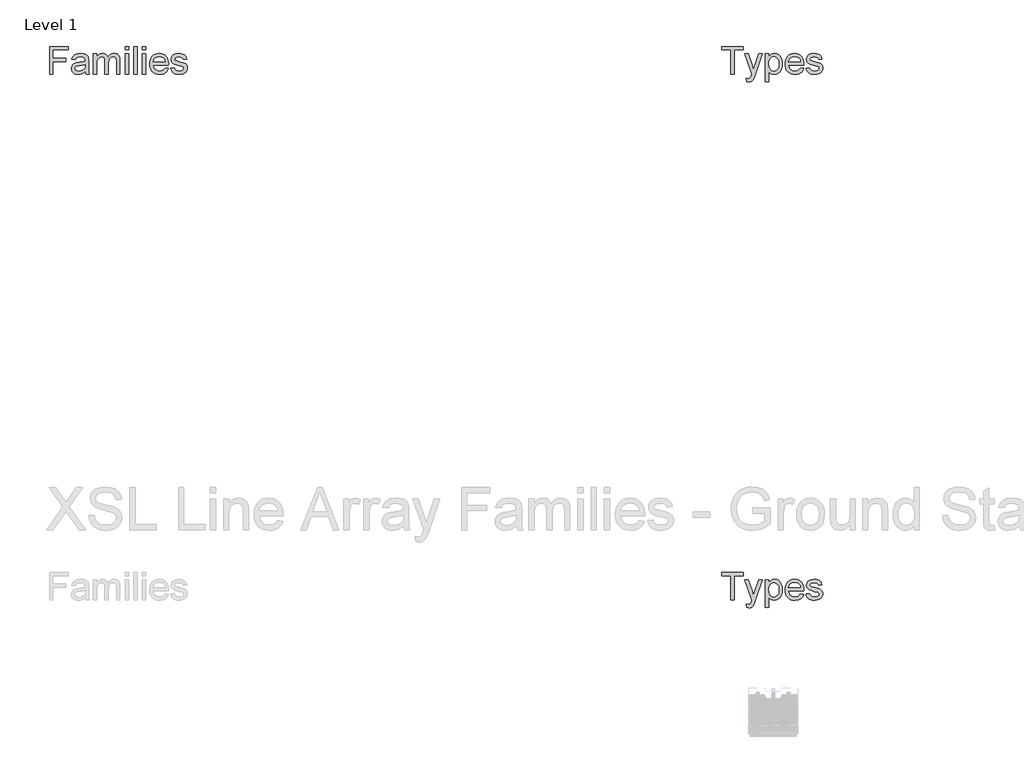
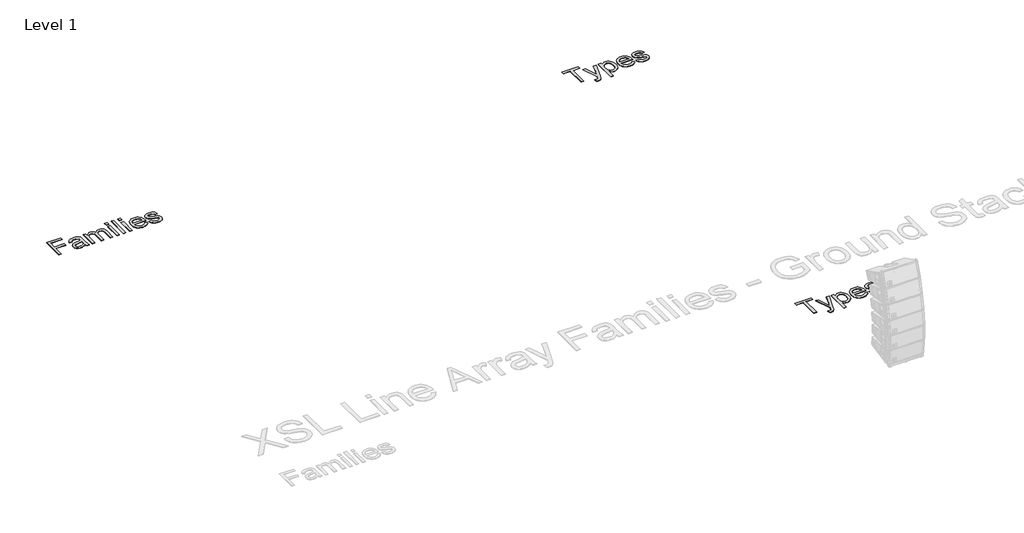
# One storey, part 22 of 52: 3 proxies.
"""IFC4 building model written with IfcOpenShell, lengths in millimetres."""

from ifc_helpers import new_model, si_unit, origin, origin_with_axes, place, context, project, spatial, polyline, outline, extrude, element, save

model = new_model("IFC4")

# Units and contexts
model_context = context("Model", 3, world=origin())
ifc_project = project(units=[si_unit("LENGTHUNIT", "METRE", prefix="MILLI")], contexts=[model_context])

# Site, building, storey
site = spatial("IfcSite", under=ifc_project)
building = spatial("IfcBuilding", under=site)
storey = spatial("IfcBuildingStorey", under=building, Name="Level 1", Elevation=0.0)

# Proxies
placement = place(None, origin())
element("IfcBuildingElementProxy", 1, Name="400mm Arial", ObjectType="400mm Arial", at=placement, inside=storey, context=model_context, shape_type="SweptSolid", body=[
    extrude(outline(polyline([(-21056.720891, -32067.5695164), (-21056.720891, -31675.8119407), (-20793.5087698, -31675.8119407), (-20793.5087698, -31724.7816376), (-21007.7511941, -31724.7816376), (-21007.7511941, -31841.0846679), (-20824.1148304, -31841.0846679), (-20824.1148304, -31890.0543649), (-21007.7511941, -31890.0543649), (-21007.7511941, -32067.5695164), (-21056.720891, -32067.5695164)])), origin_with_axes(), (0.0, 0.0, 1.0), 5.0),
    extrude(outline(polyline([(-20548.660285, -32030.8422437), (-20572.0571836, -32050.90356), (-20596.1475009, -32064.0306907), (-20621.4811893, -32071.2757191), (-20648.6082016, -32073.6907285), (-20670.4120309, -32072.2381362), (-20689.5318522, -32067.8803592), (-20705.9676654, -32060.6173976), (-20719.7194706, -32050.4492513), (-20730.5780466, -32038.0215169), (-20738.3341723, -32023.979791), (-20742.9878477, -32008.3240737), (-20744.5390729, -31991.0543649), (-20742.1957963, -31970.7539388), (-20735.1659668, -31952.3185695), (-20724.3223352, -31936.5373195), (-20710.5376524, -31924.1992513), (-20676.2493001, -31908.1310695), (-20633.879035, -31900.7664861), (-20583.8094327, -31893.019327), (-20548.9472168, -31883.9331528), (-20548.660285, -31873.0297437), (-20552.0317338, -31851.1751035), (-20562.1460804, -31836.8763346), (-20584.7658721, -31826.2598573), (-20616.2805501, -31822.7210316), (-20645.4519516, -31825.0762636), (-20665.8241107, -31832.1419596), (-20679.7163929, -31845.2093128), (-20689.4481638, -31865.5695164), (-20738.4178607, -31859.4483043), (-20729.9175056, -31832.6680013), (-20717.2327282, -31811.6263346), (-20699.1799346, -31795.5342418), (-20674.5755312, -31783.6026604), (-20644.4835568, -31776.214166), (-20609.9680501, -31773.7513346), (-20576.8632916, -31775.9272342), (-20550.6209857, -31782.4549331), (-20530.8346458, -31792.2703924), (-20517.097785, -31804.3095732), (-20507.9876997, -31819.1941613), (-20502.0816865, -31837.5458422), (-20499.690588, -31880.394327), (-20499.690588, -31941.3195164), (-20497.2038456, -32026.3948005), (-20487.4481638, -32067.5695164), (-20536.4178607, -32067.5695164), (-20544.2606638, -32050.5448952), (-20548.660285, -32030.8422437)]), holes=[polyline([(-20548.660285, -31932.9028498), (-20581.5618001, -31941.0564956), (-20627.6621789, -31947.9189482), (-20669.7933342, -31955.8573952), (-20680.7565208, -31961.2851888), (-20688.8743001, -31968.769327), (-20693.8956069, -31977.7359464), (-20695.5693759, -31987.6111831), (-20691.9229507, -32002.1729729), (-20680.9836751, -32014.1045543), (-20662.990659, -32022.0669123), (-20638.1830122, -32024.7210316), (-20611.8809289, -32021.7919359), (-20588.6394516, -32013.004649), (-20569.7975956, -32000.0568507), (-20556.6943759, -31984.646221), (-20550.8840066, -31968.769327), (-20548.9472168, -31946.771221), (-20548.660285, -31932.9028498)])]), origin_with_axes(), (0.0, 0.0, 1.0), 5.0),
    extrude(outline(polyline([(-20432.3572547, -32067.5695164), (-20432.3572547, -31779.8725467), (-20383.3875577, -31779.8725467), (-20383.3875577, -31827.2162967), (-20368.658391, -31805.469256), (-20349.720891, -31788.4326793), (-20327.2206543, -31777.4216708), (-20301.8032774, -31773.7513346), (-20274.5686657, -31777.4934037), (-20252.7379365, -31788.7196111), (-20236.4306448, -31806.6887162), (-20225.7663456, -31830.6594785), (-20207.9167954, -31805.7621656), (-20187.5565918, -31787.9783706), (-20164.6857348, -31777.3080936), (-20139.3042244, -31773.7513346), (-20119.7002057, -31775.2308268), (-20102.4932632, -31779.6693034), (-20087.683397, -31787.0667643), (-20075.2706069, -31797.4232096), (-20065.4581365, -31810.8581942), (-20058.4492291, -31827.4912731), (-20054.2438846, -31847.3224461), (-20052.8421032, -31870.3517134), (-20052.8421032, -32067.5695164), (-20101.8118001, -32067.5695164), (-20101.8118001, -31891.3933801), (-20106.3548872, -31850.505596), (-20112.7391202, -31839.2315666), (-20122.8056448, -31830.3725467), (-20135.7534431, -31824.6339104), (-20150.7814971, -31822.7210316), (-20177.3107348, -31827.6227835), (-20198.9382206, -31842.3280392), (-20207.3279874, -31853.6080463), (-20213.320678, -31867.84106), (-20218.1148304, -31905.1661073), (-20218.1148304, -32067.5695164), (-20267.0845274, -32067.5695164), (-20267.0845274, -31885.9416755), (-20269.9179791, -31858.2527551), (-20278.4183342, -31838.5022816), (-20293.3746552, -31826.6663441), (-20315.5760047, -31822.7210316), (-20334.4417717, -31825.3512399), (-20351.8250577, -31833.2418649), (-20366.1716486, -31846.2016187), (-20375.9273304, -31864.0392134), (-20381.5225009, -31888.7870827), (-20383.3875577, -31922.4776604), (-20383.3875577, -32067.5695164), (-20432.3572547, -32067.5695164)])), origin_with_axes(), (0.0, 0.0, 1.0), 5.0),
    extrude(outline(polyline([(-19979.3875577, -31724.7816376), (-19979.3875577, -31675.8119407), (-19930.4178607, -31675.8119407), (-19930.4178607, -31724.7816376), (-19979.3875577, -31724.7816376)])), origin_with_axes(), (0.0, 0.0, 1.0), 5.0),
    extrude(outline(polyline([(-19979.3875577, -32067.5695164), (-19979.3875577, -31779.8725467), (-19930.4178607, -31779.8725467), (-19930.4178607, -32067.5695164), (-19979.3875577, -32067.5695164)])), origin_with_axes(), (0.0, 0.0, 1.0), 5.0),
    extrude(outline(polyline([(-19856.9633153, -32067.5695164), (-19856.9633153, -31675.8119407), (-19807.9936183, -31675.8119407), (-19807.9936183, -32067.5695164), (-19856.9633153, -32067.5695164)])), origin_with_axes(), (0.0, 0.0, 1.0), 5.0),
    extrude(outline(polyline([(-19734.5390729, -31724.7816376), (-19734.5390729, -31675.8119407), (-19685.5693759, -31675.8119407), (-19685.5693759, -31724.7816376), (-19734.5390729, -31724.7816376)])), origin_with_axes(), (0.0, 0.0, 1.0), 5.0),
    extrude(outline(polyline([(-19734.5390729, -32067.5695164), (-19734.5390729, -31779.8725467), (-19685.5693759, -31779.8725467), (-19685.5693759, -32067.5695164), (-19734.5390729, -32067.5695164)])), origin_with_axes(), (0.0, 0.0, 1.0), 5.0),
    extrude(outline(polyline([(-19410.6886941, -31981.8725467), (-19362.6754365, -31987.9937589), (-19370.0370309, -32007.2241684), (-19379.975034, -32024.1710789), (-19392.4894457, -32038.8344904), (-19407.580266, -32051.2144028), (-19425.0920736, -32061.0477953), (-19444.8694469, -32068.0716471), (-19491.220891, -32073.6907285), (-19521.605775, -32071.2667525), (-19548.6789876, -32063.9948242), (-19572.4405288, -32051.8749437), (-19592.8903986, -32034.9071111), (-19609.3351784, -32013.5635683), (-19621.0814497, -31988.3165571), (-19628.1292125, -31959.1660777), (-19630.4784668, -31926.1121301), (-19628.1053015, -31891.937355), (-19620.9858058, -31861.8154918), (-19609.1199796, -31835.7465406), (-19592.5078229, -31813.7305013), (-19572.1117528, -31796.2396159), (-19548.8941865, -31783.7461263), (-19522.855124, -31776.2500325), (-19493.9945653, -31773.7513346), (-19466.0635461, -31776.2440548), (-19440.8045795, -31783.7222153), (-19418.2176654, -31796.1858161), (-19398.3028039, -31813.6348573), (-19382.0463231, -31835.6030747), (-19370.4345511, -31861.6242039), (-19363.4674879, -31891.6982451), (-19361.1451335, -31925.8251982), (-19361.4320653, -31939.0240619), (-19581.5087698, -31939.0240619), (-19578.6723292, -31958.5653142), (-19573.0323257, -31975.6796017), (-19564.5887592, -31990.3669241), (-19553.3416297, -32002.6272816), (-19524.9234242, -32019.1975941), (-19490.2644516, -32024.7210316), (-19464.2014782, -32022.1625562), (-19442.2511941, -32014.4871301), (-19424.4135994, -32001.2165335), (-19410.6886941, -31981.8725467)]), holes=[polyline([(-19581.5087698, -31890.0543649), (-19410.1148304, -31890.0543649), (-19416.7381732, -31864.1826793), (-19429.721838, -31845.675577), (-19443.076123, -31835.6329634), (-19458.2715539, -31828.4596679), (-19494.1858532, -31822.7210316), (-19527.1949677, -31827.2999852), (-19554.4893569, -31841.036846), (-19573.4627234, -31862.4491329), (-19581.5087698, -31890.0543649)])]), origin_with_axes(), (0.0, 0.0, 1.0), 5.0),
    extrude(outline(polyline([(-19330.5390729, -31981.8725467), (-19281.5693759, -31975.7513346), (-19273.8461278, -31996.6973573), (-19258.9017622, -32012.0960316), (-19236.6406354, -32021.5647816), (-19206.9671032, -32024.7210316), (-19177.6522357, -32021.8278024), (-19157.0409668, -32013.1481149), (-19144.8463645, -32000.5709369), (-19140.7814971, -31985.9852361), (-19144.8702755, -31973.503702), (-19157.1366107, -31963.9871301), (-19207.5409668, -31950.0231149), (-19281.2824441, -31926.0643081), (-19299.9449677, -31914.0251272), (-19313.4666297, -31898.0884558), (-19321.680053, -31879.2705107), (-19324.4178607, -31858.5875089), (-19322.2180501, -31839.6141424), (-19315.6186183, -31822.099346), (-19305.2173399, -31806.7365382), (-19291.6119895, -31794.2191376), (-19260.4798872, -31779.7290808), (-19218.3487319, -31773.7513346), (-19186.4753891, -31776.1543886), (-19158.7625577, -31783.3635505), (-19136.4775198, -31794.6734464), (-19120.8875577, -31809.378702), (-19110.5580122, -31828.5672674), (-19104.0542244, -31853.3270922), (-19153.0239213, -31859.4483043), (-19159.2049109, -31844.0376746), (-19171.4353797, -31832.4288914), (-19189.8348825, -31825.1479965), (-19214.5229744, -31822.7210316), (-19242.6422925, -31825.0403971), (-19261.3885047, -31831.9984937), (-19271.933249, -31842.0411073), (-19275.4481638, -31853.614024), (-19269.6138835, -31867.864971), (-19251.345891, -31878.6727361), (-19209.1669138, -31889.0979255), (-19137.2904933, -31912.1481149), (-19118.3051713, -31923.1710789), (-19103.9107585, -31938.2589104), (-19094.8365397, -31957.4594312), (-19091.8118001, -31980.8204634), (-19095.3625814, -32004.9705581), (-19106.0149251, -32027.6859937), (-19123.3623446, -32047.1854018), (-19146.9983532, -32061.6874142), (-19175.5480691, -32070.6899), (-19207.6366107, -32073.6907285), (-19233.9924938, -32072.244114), (-19257.0127944, -32067.9042702), (-19276.6975127, -32060.6711973), (-19293.0466486, -32050.5448952), (-19306.4009336, -32037.5731859), (-19317.1010994, -32021.8038914), (-19325.1471458, -32003.2370117), (-19330.5390729, -31981.8725467)])), origin_with_axes(), (0.0, 0.0, 1.0), 5.0),
])
element("IfcBuildingElementProxy", 2, Name="400mm Arial", ObjectType="400mm Arial", at=placement, inside=storey, context=model_context, shape_type="SweptSolid", body=[
    extrude(outline(polyline([(-11345.9583027, -32067.5695164), (-11345.9583027, -31724.7816376), (-11474.5037572, -31724.7816376), (-11474.5037572, -31675.8119407), (-11168.4431512, -31675.8119407), (-11168.4431512, -31724.7816376), (-11296.9886057, -31724.7816376), (-11296.9886057, -32067.5695164), (-11345.9583027, -32067.5695164)])), origin_with_axes(), (0.0, 0.0, 1.0), 5.0),
    extrude(outline(polyline([(-11119.4734542, -32177.7513346), (-11125.5946663, -32130.5988725), (-11100.7272421, -32134.9028498), (-11087.6479334, -32133.5518791), (-11077.4857648, -32129.4989672), (-11063.2348179, -32114.4350467), (-11049.8446663, -32078.3772816), (-11046.0189088, -32066.5174331), (-11150.0795148, -31779.8725467), (-11098.4317875, -31779.8725467), (-11043.2452345, -31939.5979255), (-11024.0208027, -32003.488077), (-11004.7963709, -31947.0581528), (-10948.0795148, -31779.8725467), (-10896.8143633, -31779.8725467), (-10996.9535679, -32074.4558801), (-11022.9687194, -32138.3460316), (-11036.2871379, -32158.7421017), (-11051.3749694, -32172.8734937), (-11068.9017213, -32181.1227835), (-11089.5369012, -32183.8725467), (-11119.4734542, -32177.7513346)])), origin_with_axes(), (0.0, 0.0, 1.0), 5.0),
    extrude(outline(polyline([(-10856.261333, -32177.7513346), (-10856.261333, -31779.8725467), (-10807.291636, -31779.8725467), (-10807.291636, -31827.8858043), (-10791.3190982, -31804.2019738), (-10773.4336815, -31787.284952), (-10752.5833027, -31777.134739), (-10727.7158785, -31773.7513346), (-10694.5991644, -31778.4857096), (-10665.6429618, -31792.6888346), (-10642.0667307, -31815.4999142), (-10625.0899315, -31846.0581528), (-10614.832119, -31882.1398289), (-10611.4128482, -31921.521221), (-10615.2744722, -31963.4013109), (-10626.8593444, -32000.8578687), (-10645.7968444, -32031.989971), (-10671.7163519, -32054.8966945), (-10701.9039703, -32068.99222), (-10733.6458027, -32073.6907285), (-10756.1579949, -32070.546434), (-10776.2551777, -32061.1135505), (-10793.4591313, -32046.874559), (-10807.291636, -32029.3119407), (-10807.291636, -32177.7513346), (-10856.261333, -32177.7513346)]), holes=[polyline([(-10807.291636, -31926.0164861), (-10801.9953529, -31969.9170543), (-10795.374999, -31986.9177645), (-10786.1065035, -32000.6187589), (-10762.6617828, -32018.6954634), (-10749.2447314, -32023.2146395), (-10734.697886, -32024.7210316), (-10719.9418195, -32023.1608398), (-10706.2796805, -32018.4802645), (-10682.2371853, -31999.7579634), (-10672.6757802, -31985.5608161), (-10665.8462052, -31967.9324426), (-10660.3825451, -31922.3820164), (-10665.7146947, -31878.7205581), (-10672.3798818, -31861.5883375), (-10681.7111436, -31847.5884558), (-10705.1199978, -31828.9378876), (-10718.3846166, -31824.2752456), (-10732.6893633, -31822.7210316), (-10746.9492769, -31824.3738784), (-10760.3663283, -31829.3324189), (-10784.6718444, -31849.1665808), (-10794.5680032, -31863.8867809), (-10801.6366881, -31881.6018318), (-10805.8778991, -31902.3117335), (-10807.291636, -31926.0164861)])]), origin_with_axes(), (0.0, 0.0, 1.0), 5.0),
    extrude(outline(polyline([(-10354.8958027, -31981.8725467), (-10306.8825451, -31987.9937589), (-10314.2441396, -32007.2241684), (-10324.1821427, -32024.1710789), (-10336.6965544, -32038.8344904), (-10351.7873747, -32051.2144028), (-10369.2991822, -32061.0477953), (-10389.0765555, -32068.0716471), (-10435.4279997, -32073.6907285), (-10465.8128837, -32071.2667525), (-10492.8860963, -32063.9948242), (-10516.6476375, -32051.8749437), (-10537.0975072, -32034.9071111), (-10553.5422871, -32013.5635683), (-10565.2885584, -31988.3165571), (-10572.3363212, -31959.1660777), (-10574.6855754, -31926.1121301), (-10572.3124102, -31891.937355), (-10565.1929144, -31861.8154918), (-10553.3270882, -31835.7465406), (-10536.7149315, -31813.7305013), (-10516.3188614, -31796.2396159), (-10493.1012951, -31783.7461263), (-10467.0622326, -31776.2500325), (-10438.2016739, -31773.7513346), (-10410.2706547, -31776.2440548), (-10385.0116881, -31783.7222153), (-10362.4247741, -31796.1858161), (-10342.5099125, -31813.6348573), (-10326.2534317, -31835.6030747), (-10314.6416597, -31861.6242039), (-10307.6745965, -31891.6982451), (-10305.3522421, -31925.8251982), (-10305.6391739, -31939.0240619), (-10525.7158785, -31939.0240619), (-10522.8794379, -31958.5653142), (-10517.2394343, -31975.6796017), (-10508.7958678, -31990.3669241), (-10497.5487383, -32002.6272816), (-10469.1305328, -32019.1975941), (-10434.4715603, -32024.7210316), (-10408.4085868, -32022.1625562), (-10386.4583027, -32014.4871301), (-10368.620708, -32001.2165335), (-10354.8958027, -31981.8725467)]), holes=[polyline([(-10525.7158785, -31890.0543649), (-10354.3219391, -31890.0543649), (-10360.9452819, -31864.1826793), (-10373.9289466, -31845.675577), (-10387.2832317, -31835.6329634), (-10402.4786625, -31828.4596679), (-10438.3929618, -31822.7210316), (-10471.4020764, -31827.2999852), (-10498.6964656, -31841.036846), (-10517.6698321, -31862.4491329), (-10525.7158785, -31890.0543649)])]), origin_with_axes(), (0.0, 0.0, 1.0), 5.0),
    extrude(outline(polyline([(-10274.7461815, -31981.8725467), (-10225.7764845, -31975.7513346), (-10218.0532364, -31996.6973573), (-10203.1088709, -32012.0960316), (-10180.847744, -32021.5647816), (-10151.1742118, -32024.7210316), (-10121.8593444, -32021.8278024), (-10101.2480754, -32013.1481149), (-10089.0534732, -32000.5709369), (-10084.9886057, -31985.9852361), (-10089.0773841, -31973.503702), (-10101.3437194, -31963.9871301), (-10151.7480754, -31950.0231149), (-10225.4895527, -31926.0643081), (-10244.1520764, -31914.0251272), (-10257.6737383, -31898.0884558), (-10265.8871616, -31879.2705107), (-10268.6249694, -31858.5875089), (-10266.4251588, -31839.6141424), (-10259.8257269, -31822.099346), (-10249.4244485, -31806.7365382), (-10235.8190982, -31794.2191376), (-10204.6869959, -31779.7290808), (-10162.5558406, -31773.7513346), (-10130.6824978, -31776.1543886), (-10102.9696663, -31783.3635505), (-10080.6846285, -31794.6734464), (-10065.0946663, -31809.378702), (-10054.7651209, -31828.5672674), (-10048.261333, -31853.3270922), (-10097.23103, -31859.4483043), (-10103.4120196, -31844.0376746), (-10115.6424883, -31832.4288914), (-10134.0419911, -31825.1479965), (-10158.730083, -31822.7210316), (-10186.8494012, -31825.0403971), (-10205.5956133, -31831.9984937), (-10216.1403576, -31842.0411073), (-10219.6552724, -31853.614024), (-10213.8209921, -31867.864971), (-10195.5529997, -31878.6727361), (-10153.3740224, -31889.0979255), (-10081.4976019, -31912.1481149), (-10062.51228, -31923.1710789), (-10048.1178671, -31938.2589104), (-10039.0436483, -31957.4594312), (-10036.0189088, -31980.8204634), (-10039.56969, -32004.9705581), (-10050.2220338, -32027.6859937), (-10067.5694533, -32047.1854018), (-10091.2054618, -32061.6874142), (-10119.7551777, -32070.6899), (-10151.8437194, -32073.6907285), (-10178.1996024, -32072.244114), (-10201.2199031, -32067.9042702), (-10220.9046214, -32060.6711973), (-10237.2537572, -32050.5448952), (-10250.6080423, -32037.5731859), (-10261.308208, -32021.8038914), (-10269.3542544, -32003.2370117), (-10274.7461815, -31981.8725467)])), origin_with_axes(), (0.0, 0.0, 1.0), 5.0),
])
element("IfcBuildingElementProxy", 3, Name="400mm Arial", ObjectType="400mm Arial", at=placement, inside=storey, context=model_context, shape_type="SweptSolid", body=[
    extrude(outline(polyline([(-11345.9583027, -39567.5695164), (-11345.9583027, -39224.7816376), (-11474.5037572, -39224.7816376), (-11474.5037572, -39175.8119407), (-11168.4431512, -39175.8119407), (-11168.4431512, -39224.7816376), (-11296.9886057, -39224.7816376), (-11296.9886057, -39567.5695164), (-11345.9583027, -39567.5695164)])), origin_with_axes(), (0.0, 0.0, 1.0), 5.0),
    extrude(outline(polyline([(-11119.4734542, -39677.7513346), (-11125.5946663, -39630.5988725), (-11100.7272421, -39634.9028498), (-11087.6479334, -39633.5518791), (-11077.4857648, -39629.4989672), (-11063.2348179, -39614.4350467), (-11049.8446663, -39578.3772816), (-11046.0189088, -39566.5174331), (-11150.0795148, -39279.8725467), (-11098.4317875, -39279.8725467), (-11043.2452345, -39439.5979255), (-11024.0208027, -39503.488077), (-11004.7963709, -39447.0581528), (-10948.0795148, -39279.8725467), (-10896.8143633, -39279.8725467), (-10996.9535679, -39574.4558801), (-11022.9687194, -39638.3460316), (-11036.2871379, -39658.7421017), (-11051.3749694, -39672.8734937), (-11068.9017213, -39681.1227835), (-11089.5369012, -39683.8725467), (-11119.4734542, -39677.7513346)])), origin_with_axes(), (0.0, 0.0, 1.0), 5.0),
    extrude(outline(polyline([(-10856.261333, -39677.7513346), (-10856.261333, -39279.8725467), (-10807.291636, -39279.8725467), (-10807.291636, -39327.8858043), (-10791.3190982, -39304.2019738), (-10773.4336815, -39287.284952), (-10752.5833027, -39277.134739), (-10727.7158785, -39273.7513346), (-10694.5991644, -39278.4857096), (-10665.6429618, -39292.6888346), (-10642.0667307, -39315.4999142), (-10625.0899315, -39346.0581528), (-10614.832119, -39382.1398289), (-10611.4128482, -39421.521221), (-10615.2744722, -39463.4013109), (-10626.8593444, -39500.8578687), (-10645.7968444, -39531.989971), (-10671.7163519, -39554.8966945), (-10701.9039703, -39568.99222), (-10733.6458027, -39573.6907285), (-10756.1579949, -39570.546434), (-10776.2551777, -39561.1135505), (-10793.4591313, -39546.874559), (-10807.291636, -39529.3119407), (-10807.291636, -39677.7513346), (-10856.261333, -39677.7513346)]), holes=[polyline([(-10807.291636, -39426.0164861), (-10801.9953529, -39469.9170543), (-10795.374999, -39486.9177645), (-10786.1065035, -39500.6187589), (-10762.6617828, -39518.6954634), (-10749.2447314, -39523.2146395), (-10734.697886, -39524.7210316), (-10719.9418195, -39523.1608398), (-10706.2796805, -39518.4802645), (-10682.2371853, -39499.7579634), (-10672.6757802, -39485.5608161), (-10665.8462052, -39467.9324426), (-10660.3825451, -39422.3820164), (-10665.7146947, -39378.7205581), (-10672.3798818, -39361.5883375), (-10681.7111436, -39347.5884558), (-10705.1199978, -39328.9378876), (-10718.3846166, -39324.2752456), (-10732.6893633, -39322.7210316), (-10746.9492769, -39324.3738784), (-10760.3663283, -39329.3324189), (-10784.6718444, -39349.1665808), (-10794.5680032, -39363.8867809), (-10801.6366881, -39381.6018318), (-10805.8778991, -39402.3117335), (-10807.291636, -39426.0164861)])]), origin_with_axes(), (0.0, 0.0, 1.0), 5.0),
    extrude(outline(polyline([(-10354.8958027, -39481.8725467), (-10306.8825451, -39487.9937589), (-10314.2441396, -39507.2241684), (-10324.1821427, -39524.1710789), (-10336.6965544, -39538.8344904), (-10351.7873747, -39551.2144028), (-10369.2991822, -39561.0477953), (-10389.0765555, -39568.0716471), (-10435.4279997, -39573.6907285), (-10465.8128837, -39571.2667525), (-10492.8860963, -39563.9948242), (-10516.6476375, -39551.8749437), (-10537.0975072, -39534.9071111), (-10553.5422871, -39513.5635683), (-10565.2885584, -39488.3165571), (-10572.3363212, -39459.1660777), (-10574.6855754, -39426.1121301), (-10572.3124102, -39391.937355), (-10565.1929144, -39361.8154918), (-10553.3270882, -39335.7465406), (-10536.7149315, -39313.7305013), (-10516.3188614, -39296.2396159), (-10493.1012951, -39283.7461263), (-10467.0622326, -39276.2500325), (-10438.2016739, -39273.7513346), (-10410.2706547, -39276.2440548), (-10385.0116881, -39283.7222153), (-10362.4247741, -39296.1858161), (-10342.5099125, -39313.6348573), (-10326.2534317, -39335.6030747), (-10314.6416597, -39361.6242039), (-10307.6745965, -39391.6982451), (-10305.3522421, -39425.8251982), (-10305.6391739, -39439.0240619), (-10525.7158785, -39439.0240619), (-10522.8794379, -39458.5653142), (-10517.2394343, -39475.6796017), (-10508.7958678, -39490.3669241), (-10497.5487383, -39502.6272816), (-10469.1305328, -39519.1975941), (-10434.4715603, -39524.7210316), (-10408.4085868, -39522.1625562), (-10386.4583027, -39514.4871301), (-10368.620708, -39501.2165335), (-10354.8958027, -39481.8725467)]), holes=[polyline([(-10525.7158785, -39390.0543649), (-10354.3219391, -39390.0543649), (-10360.9452819, -39364.1826793), (-10373.9289466, -39345.675577), (-10387.2832317, -39335.6329634), (-10402.4786625, -39328.4596679), (-10438.3929618, -39322.7210316), (-10471.4020764, -39327.2999852), (-10498.6964656, -39341.036846), (-10517.6698321, -39362.4491329), (-10525.7158785, -39390.0543649)])]), origin_with_axes(), (0.0, 0.0, 1.0), 5.0),
    extrude(outline(polyline([(-10274.7461815, -39481.8725467), (-10225.7764845, -39475.7513346), (-10218.0532364, -39496.6973573), (-10203.1088709, -39512.0960316), (-10180.847744, -39521.5647816), (-10151.1742118, -39524.7210316), (-10121.8593444, -39521.8278024), (-10101.2480754, -39513.1481149), (-10089.0534732, -39500.5709369), (-10084.9886057, -39485.9852361), (-10089.0773841, -39473.503702), (-10101.3437194, -39463.9871301), (-10151.7480754, -39450.0231149), (-10225.4895527, -39426.0643081), (-10244.1520764, -39414.0251272), (-10257.6737383, -39398.0884558), (-10265.8871616, -39379.2705107), (-10268.6249694, -39358.5875089), (-10266.4251588, -39339.6141424), (-10259.8257269, -39322.099346), (-10249.4244485, -39306.7365382), (-10235.8190982, -39294.2191376), (-10204.6869959, -39279.7290808), (-10162.5558406, -39273.7513346), (-10130.6824978, -39276.1543886), (-10102.9696663, -39283.3635505), (-10080.6846285, -39294.6734464), (-10065.0946663, -39309.378702), (-10054.7651209, -39328.5672674), (-10048.261333, -39353.3270922), (-10097.23103, -39359.4483043), (-10103.4120196, -39344.0376746), (-10115.6424883, -39332.4288914), (-10134.0419911, -39325.1479965), (-10158.730083, -39322.7210316), (-10186.8494012, -39325.0403971), (-10205.5956133, -39331.9984937), (-10216.1403576, -39342.0411073), (-10219.6552724, -39353.614024), (-10213.8209921, -39367.864971), (-10195.5529997, -39378.6727361), (-10153.3740224, -39389.0979255), (-10081.4976019, -39412.1481149), (-10062.51228, -39423.1710789), (-10048.1178671, -39438.2589104), (-10039.0436483, -39457.4594312), (-10036.0189088, -39480.8204634), (-10039.56969, -39504.9705581), (-10050.2220338, -39527.6859937), (-10067.5694533, -39547.1854018), (-10091.2054618, -39561.6874142), (-10119.7551777, -39570.6899), (-10151.8437194, -39573.6907285), (-10178.1996024, -39572.244114), (-10201.2199031, -39567.9042702), (-10220.9046214, -39560.6711973), (-10237.2537572, -39550.5448952), (-10250.6080423, -39537.5731859), (-10261.308208, -39521.8038914), (-10269.3542544, -39503.2370117), (-10274.7461815, -39481.8725467)])), origin_with_axes(), (0.0, 0.0, 1.0), 5.0),
])

save(model, "model.ifc")
